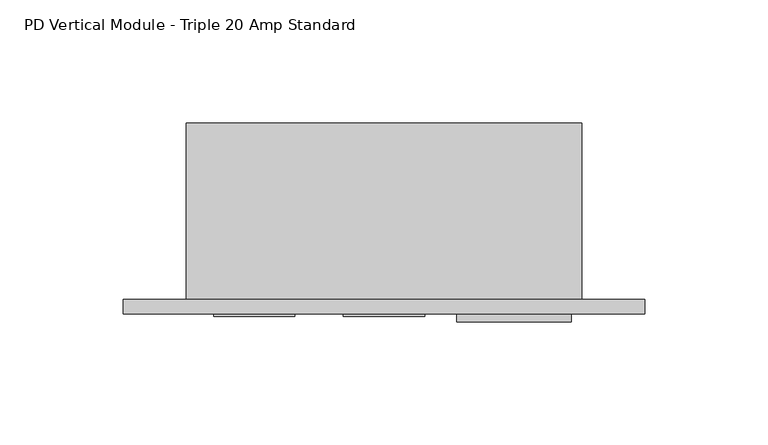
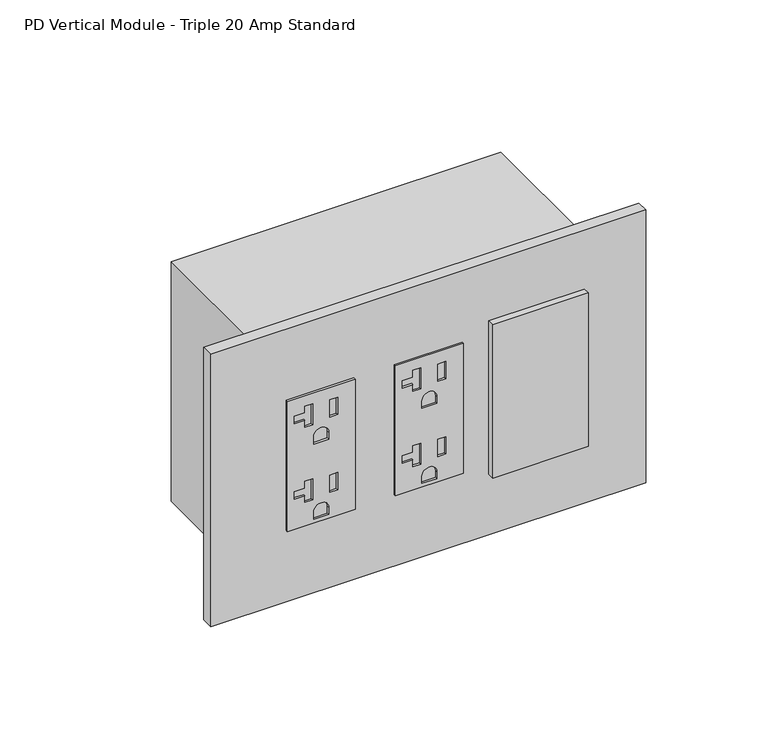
"""IFC4 building model written with IfcOpenShell, lengths in millimetres: proxy geometry, Electrical-Teknion-EPDMT_Vertical_Power_Data_Triple-R2019 : PD Vertical Module - Triple 20 Amp Standard."""

from ifc_helpers import new_model, si_unit, point, frame, frame_2d, origin, place, context, project, spatial, polyline, circle_curve, trimmed, segment, composite_curve, outline, extrude, source, transform, mapped, element, save


def pd_vertical_module_triple_20_amp_standard_33b3a22f(model_context):
    return source(origin(), model_context, "Body", "SweptSolid", [
        extrude(outline(polyline([(414.4772, 96.7613), (414.4772, 63.7667), (347.5228, 63.7667), (347.5228, 96.7613), (414.4772, 96.7613)]), holes=[polyline([(409.0924, 76.1111), (398.272, 76.1111), (398.272, 72.2757), (401.7518, 72.2757), (401.7518, 67.1703), (405.6126, 67.1703), (405.6126, 72.2757), (409.0924, 72.2757), (409.0924, 76.1111)]), polyline([(408.1145, 88.2777), (399.2499, 88.2777), (399.2499, 84.4423), (408.1145, 84.4423), (408.1145, 88.2777)]), composite_curve([segment(polyline([(388.0866, 83.8962), (388.0866, 76.6318), (391.7188, 76.6318)]), True, "CONTINUOUS"), segment(trimmed(circle_curve(frame_2d((391.7188, 80.264)), 3.6322), [point((391.7188, 76.6318))], [point((391.7188, 83.8962))], True, "CARTESIAN"), True, "CONTINUOUS"), segment(polyline([(391.7188, 83.8962), (388.0866, 83.8962)]), True, "CONTINUOUS")], self_intersect=False), polyline([(370.3574, 76.1111), (359.537, 76.1111), (359.537, 72.2757), (363.0168, 72.2757), (363.0168, 67.1703), (366.8776, 67.1703), (366.8776, 72.2757), (370.3574, 72.2757), (370.3574, 76.1111)]), polyline([(369.3795, 88.2777), (360.5149, 88.2777), (360.5149, 84.4423), (369.3795, 84.4423), (369.3795, 88.2777)]), composite_curve([segment(polyline([(349.3516, 83.8962), (349.3516, 76.6318), (352.9838, 76.6318)]), True, "CONTINUOUS"), segment(trimmed(circle_curve(frame_2d((352.9838, 80.264)), 3.6322), [point((352.9838, 76.6318))], [point((352.9838, 83.8962))], True, "CARTESIAN"), True, "CONTINUOUS"), segment(polyline([(352.9838, 83.8962), (349.3516, 83.8962)]), True, "CONTINUOUS")], self_intersect=False)]), frame((0.0, -6.9294746, 0.0), z_axis=(0.0, 1.0, 0.0), x_axis=(0.0, 0.0, 1.0)), (0.0, 0.0, 1.0), 1.0366746),
        extrude(outline(polyline([(414.4772, 44.0944), (414.4772, 11.0998), (347.5228, 11.0998), (347.5228, 44.0944), (414.4772, 44.0944)]), holes=[polyline([(409.0924, 23.4442), (398.272, 23.4442), (398.272, 19.6088), (401.7518, 19.6088), (401.7518, 14.5034), (405.6126, 14.5034), (405.6126, 19.6088), (409.0924, 19.6088), (409.0924, 23.4442)]), polyline([(408.1145, 35.6108), (399.2499, 35.6108), (399.2499, 31.7754), (408.1145, 31.7754), (408.1145, 35.6108)]), composite_curve([segment(polyline([(388.0866, 31.2293), (388.0866, 23.9649), (391.7188, 23.9649)]), True, "CONTINUOUS"), segment(trimmed(circle_curve(frame_2d((391.7188, 27.5971)), 3.6322), [point((391.7188, 23.9649))], [point((391.7188, 31.2293))], True, "CARTESIAN"), True, "CONTINUOUS"), segment(polyline([(391.7188, 31.2293), (388.0866, 31.2293)]), True, "CONTINUOUS")], self_intersect=False), polyline([(370.3574, 23.4442), (359.537, 23.4442), (359.537, 19.6088), (363.0168, 19.6088), (363.0168, 14.5034), (366.8776, 14.5034), (366.8776, 19.6088), (370.3574, 19.6088), (370.3574, 23.4442)]), polyline([(369.3795, 35.6108), (360.5149, 35.6108), (360.5149, 31.7754), (369.3795, 31.7754), (369.3795, 35.6108)]), composite_curve([segment(polyline([(349.3516, 31.2293), (349.3516, 23.9649), (352.9838, 23.9649)]), True, "CONTINUOUS"), segment(trimmed(circle_curve(frame_2d((352.9838, 27.5971)), 3.6322), [point((352.9838, 23.9649))], [point((352.9838, 31.2293))], True, "CARTESIAN"), True, "CONTINUOUS"), segment(polyline([(352.9838, 31.2293), (349.3516, 31.2293)]), True, "CONTINUOUS")], self_intersect=False)]), frame((0.0, -6.9294746, 0.0), z_axis=(0.0, 1.0, 0.0), x_axis=(0.0, 0.0, 1.0)), (0.0, 0.0, 1.0), 1.0366746),
        extrude(outline(polyline([(109.8296, -5.8928), (156.3624, -5.8928), (156.3624, -9.0678), (109.8296, -9.0678), (109.8296, -5.8928)])), frame((0.0, 0.0, 341.7922742), z_axis=(0.0, 0.0, 1.0), x_axis=(1.0, 0.0, 0.0)), (0.0, 0.0, 1.0), 79.0448),
        extrude(outline(polyline([(-25.6794, 0.0), (186.2074, 0.0), (186.2074, -5.8928), (-25.6794, -5.8928), (-25.6794, 0.0)])), frame((0.0, 0.0, 310.8198), z_axis=(0.0, 0.0, 1.0), x_axis=(1.0, 0.0, 0.0)), (0.0, 0.0, 1.0), 140.3604),
        extrude(outline(polyline([(160.528, 0.0), (0.0, 0.0), (0.0, 71.7296), (160.528, 71.7296), (160.528, 0.0)])), frame((0.0, 0.0, 319.2526), z_axis=(0.0, 0.0, 1.0), x_axis=(1.0, 0.0, 0.0)), (0.0, 0.0, 1.0), 123.4948),
    ])


if __name__ == "__main__":
    model = new_model("IFC4")
    model_context = context("Model", 3, world=origin())
    ifc_project = project(units=[si_unit("LENGTHUNIT", "METRE", prefix="MILLI")], contexts=[model_context])
    site = spatial("IfcSite", under=ifc_project)
    building = spatial("IfcBuilding", under=site)
    placement = place(None, origin())
    pd_vertical_module_triple_20_amp_standard_shape = pd_vertical_module_triple_20_amp_standard_33b3a22f(model_context)
    element("IfcBuildingElementProxy", 1, Name="Electrical-Teknion-EPDMT_Vertical_Power_Data_Triple-R2019 : PD Vertical Module - Triple 20 Amp Standard", ObjectType="Electrical-Teknion-EPDMT_Vertical_Power_Data_Triple-R2019 : PD Vertical Module - Triple 20 Amp Standard", at=placement, inside=building, context=model_context, shape_type="MappedRepresentation", body=[
        mapped(pd_vertical_module_triple_20_amp_standard_shape, transform((0.0, 0.0, 0.0), x_axis=(1.0, 0.0, 0.0), y_axis=(0.0, 1.0, 0.0), z_axis=(0.0, 0.0, 1.0))),
    ])
    save(model, "model.ifc")
